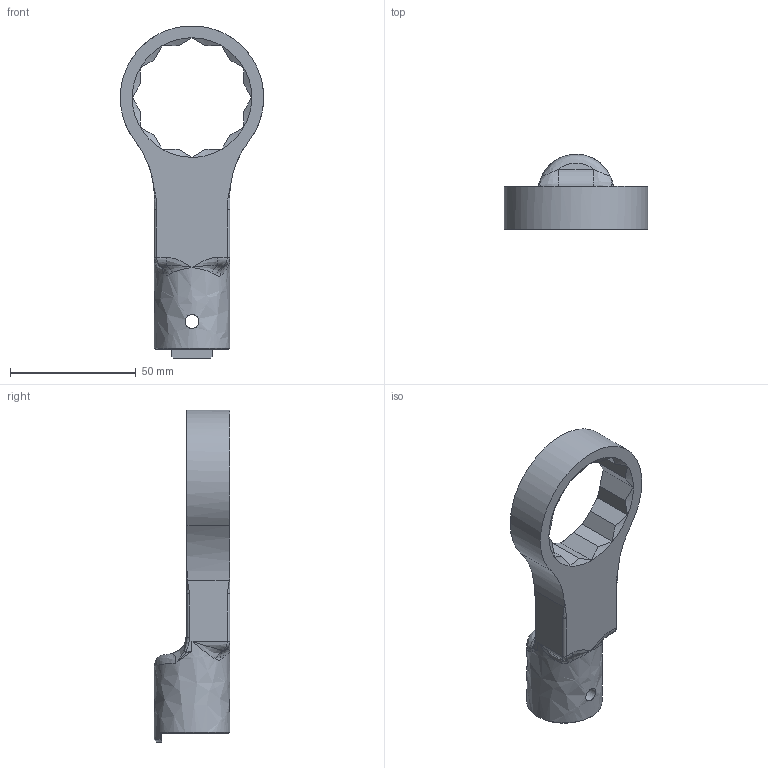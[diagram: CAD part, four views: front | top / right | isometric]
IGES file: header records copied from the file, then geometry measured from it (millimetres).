
Global section: file name: RH22DX41; native system: Autodesk Inventor 2016; preprocessor: unknown; author: Q600; date: 20151110.162939; units: millimetre
Bounding box: 57 x 30 x 131.94 mm (x, y, z)
Volume: 50723.6 mm3; surface area: 16508.5 mm2
Topology: 1 solids, 1 shells, 87 faces, 247 edges, 149 vertices
Faces by surface type: bspline 87
